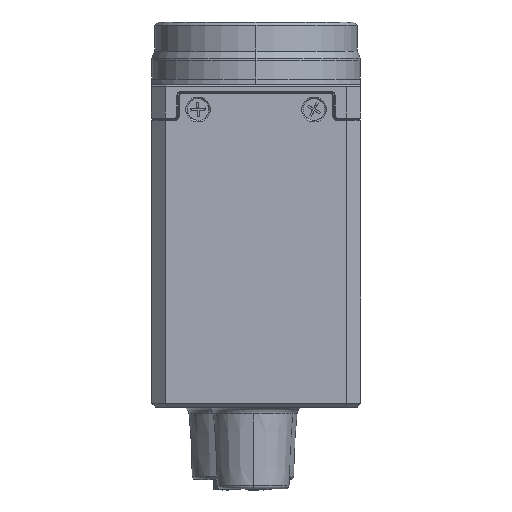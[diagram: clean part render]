
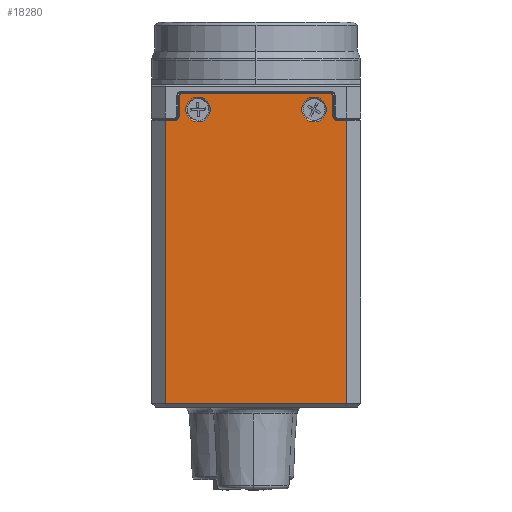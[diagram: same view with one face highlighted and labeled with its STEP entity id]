
A CAD part, left-side view. The second image highlights one B-rep face of the part: STEP entity #18280.
In plain terms, the highlighted planar face has unit normal (-1, 0, 0).
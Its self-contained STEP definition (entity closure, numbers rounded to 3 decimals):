
#19 = DIRECTION ( 'NONE',  ( 1., 0., 0. ) ) ;
#20 = VERTEX_POINT ( 'NONE', #3892 ) ;
#164 = VECTOR ( 'NONE', #22128, 1000. ) ;
#255 = CARTESIAN_POINT ( 'NONE',  ( -22., 10.6, 6. ) ) ;
#595 = CARTESIAN_POINT ( 'NONE',  ( -22., -10.6, 6. ) ) ;
#848 = ORIENTED_EDGE ( 'NONE', *, *, #8259, .T. ) ;
#946 = AXIS2_PLACEMENT_3D ( 'NONE', #16317, #2841, #14506 ) ;
#1070 = LINE ( 'NONE', #7257, #2730 ) ;
#1352 = CARTESIAN_POINT ( 'NONE',  ( -22., -10.2, 9.1 ) ) ;
#1523 = ORIENTED_EDGE ( 'NONE', *, *, #3935, .F. ) ;
#1817 = DIRECTION ( 'NONE',  ( 0., 1., 0. ) ) ;
#1862 = ORIENTED_EDGE ( 'NONE', *, *, #9431, .T. ) ;
#2003 = VERTEX_POINT ( 'NONE', #12999 ) ;
#2270 = DIRECTION ( 'NONE',  ( 0., 1., 0. ) ) ;
#2455 = VERTEX_POINT ( 'NONE', #13159 ) ;
#2501 = DIRECTION ( 'NONE',  ( 0., 1., 0. ) ) ;
#2533 = EDGE_LOOP ( 'NONE', ( #1523, #18988 ) ) ;
#2682 = LINE ( 'NONE', #14099, #4579 ) ;
#2730 = VECTOR ( 'NONE', #22880, 1000. ) ;
#2841 = DIRECTION ( 'NONE',  ( -1., 0., 0. ) ) ;
#2849 = EDGE_CURVE ( 'NONE', #13545, #20, #9083, .T. ) ;
#2936 = VERTEX_POINT ( 'NONE', #18092 ) ;
#2951 = EDGE_CURVE ( 'NONE', #22620, #3953, #2682, .T. ) ;
#3023 = EDGE_LOOP ( 'NONE', ( #23467, #1862, #16623, #23057, #848, #6311, #7621, #15459, #16980, #10629, #16657, #21798 ) ) ;
#3082 = DIRECTION ( 'NONE',  ( 0., 1., 0. ) ) ;
#3377 = CARTESIAN_POINT ( 'NONE',  ( -22., -8., 6.9 ) ) ;
#3459 = DIRECTION ( 'NONE',  ( 1., 0., 0. ) ) ;
#3892 = CARTESIAN_POINT ( 'NONE',  ( -22., -8., 8.6 ) ) ;
#3924 = AXIS2_PLACEMENT_3D ( 'NONE', #13460, #3459, #3082 ) ;
#3935 = EDGE_CURVE ( 'NONE', #20, #13545, #23076, .T. ) ;
#3953 = VERTEX_POINT ( 'NONE', #5449 ) ;
#4127 = EDGE_CURVE ( 'NONE', #9990, #14365, #23887, .T. ) ;
#4331 = CARTESIAN_POINT ( 'NONE',  ( -22., -10.2, 8.7 ) ) ;
#4377 = CARTESIAN_POINT ( 'NONE',  ( -22., -11.2, 5.4 ) ) ;
#4579 = VECTOR ( 'NONE', #10392, 1000. ) ;
#5090 = ORIENTED_EDGE ( 'NONE', *, *, #20112, .F. ) ;
#5449 = CARTESIAN_POINT ( 'NONE',  ( -22., -12.5, -33.7 ) ) ;
#5620 = DIRECTION ( 'NONE',  ( 0., 0., 1. ) ) ;
#5658 = FACE_BOUND ( 'NONE', #7086, .T. ) ;
#6003 = EDGE_CURVE ( 'NONE', #6660, #2936, #7425, .T. ) ;
#6054 = DIRECTION ( 'NONE',  ( 0., 1., 0. ) ) ;
#6253 = LINE ( 'NONE', #14039, #21952 ) ;
#6311 = ORIENTED_EDGE ( 'NONE', *, *, #14417, .T. ) ;
#6660 = VERTEX_POINT ( 'NONE', #20797 ) ;
#6719 = CIRCLE ( 'NONE', #7960, 0.6 ) ;
#6761 = CARTESIAN_POINT ( 'NONE',  ( -22., 10.6, 5.5 ) ) ;
#6819 = CARTESIAN_POINT ( 'NONE',  ( -22., 10.2, 8.7 ) ) ;
#7001 = CIRCLE ( 'NONE', #19267, 0.4 ) ;
#7086 = EDGE_LOOP ( 'NONE', ( #18158, #5090 ) ) ;
#7257 = CARTESIAN_POINT ( 'NONE',  ( -22., 14.4, -33.7 ) ) ;
#7316 = EDGE_CURVE ( 'NONE', #2003, #10024, #14302, .T. ) ;
#7425 = LINE ( 'NONE', #23172, #13928 ) ;
#7541 = CIRCLE ( 'NONE', #15734, 0.6 ) ;
#7581 = FACE_BOUND ( 'NONE', #2533, .T. ) ;
#7621 = ORIENTED_EDGE ( 'NONE', *, *, #14290, .T. ) ;
#7937 = EDGE_CURVE ( 'NONE', #10024, #2455, #6719, .T. ) ;
#7960 = AXIS2_PLACEMENT_3D ( 'NONE', #23370, #19, #1817 ) ;
#8259 = EDGE_CURVE ( 'NONE', #22302, #20306, #7541, .T. ) ;
#9083 = CIRCLE ( 'NONE', #20132, 1.7 ) ;
#9431 = EDGE_CURVE ( 'NONE', #6660, #3953, #1070, .T. ) ;
#9464 = VECTOR ( 'NONE', #18802, 1000. ) ;
#9990 = VERTEX_POINT ( 'NONE', #17845 ) ;
#10024 = VERTEX_POINT ( 'NONE', #255 ) ;
#10392 = DIRECTION ( 'NONE',  ( 0., 0., -1. ) ) ;
#10421 = DIRECTION ( 'NONE',  ( -1., 0., 0. ) ) ;
#10475 = DIRECTION ( 'NONE',  ( -1., 0., 0. ) ) ;
#10528 = DIRECTION ( 'NONE',  ( -1., 0., 0. ) ) ;
#10549 = VERTEX_POINT ( 'NONE', #23020 ) ;
#10629 = ORIENTED_EDGE ( 'NONE', *, *, #7316, .T. ) ;
#11208 = DIRECTION ( 'NONE',  ( -1., 0., 0. ) ) ;
#11595 = AXIS2_PLACEMENT_3D ( 'NONE', #3377, #11208, #21332 ) ;
#12893 = CARTESIAN_POINT ( 'NONE',  ( -22., -10.6, 5.5 ) ) ;
#12999 = CARTESIAN_POINT ( 'NONE',  ( -22., 10.6, 8.7 ) ) ;
#13057 = DIRECTION ( 'NONE',  ( 0., 0., 1. ) ) ;
#13159 = CARTESIAN_POINT ( 'NONE',  ( -22., 11.2, 5.4 ) ) ;
#13460 = CARTESIAN_POINT ( 'NONE',  ( -22., 14.4, 5.5 ) ) ;
#13486 = VECTOR ( 'NONE', #25370, 1000. ) ;
#13545 = VERTEX_POINT ( 'NONE', #17606 ) ;
#13601 = CARTESIAN_POINT ( 'NONE',  ( -22., -11.2, 6. ) ) ;
#13804 = CARTESIAN_POINT ( 'NONE',  ( -22., -11.2, 5.4 ) ) ;
#13928 = VECTOR ( 'NONE', #5620, 1000. ) ;
#14039 = CARTESIAN_POINT ( 'NONE',  ( -22., 14.4, 9.1 ) ) ;
#14099 = CARTESIAN_POINT ( 'NONE',  ( -22., -12.5, 5.5 ) ) ;
#14290 = EDGE_CURVE ( 'NONE', #18534, #19117, #19131, .T. ) ;
#14302 = LINE ( 'NONE', #6761, #164 ) ;
#14365 = VERTEX_POINT ( 'NONE', #18173 ) ;
#14417 = EDGE_CURVE ( 'NONE', #20306, #18534, #22510, .T. ) ;
#14420 = EDGE_CURVE ( 'NONE', #2455, #2936, #18556, .T. ) ;
#14506 = DIRECTION ( 'NONE',  ( 0., 0., 1. ) ) ;
#15394 = DIRECTION ( 'NONE',  ( -1., 0., 0. ) ) ;
#15459 = ORIENTED_EDGE ( 'NONE', *, *, #19551, .T. ) ;
#15734 = AXIS2_PLACEMENT_3D ( 'NONE', #13601, #17586, #6054 ) ;
#16317 = CARTESIAN_POINT ( 'NONE',  ( -22., 8., 6.9 ) ) ;
#16623 = ORIENTED_EDGE ( 'NONE', *, *, #2951, .F. ) ;
#16657 = ORIENTED_EDGE ( 'NONE', *, *, #7937, .T. ) ;
#16980 = ORIENTED_EDGE ( 'NONE', *, *, #17060, .T. ) ;
#17060 = EDGE_CURVE ( 'NONE', #10549, #2003, #7001, .T. ) ;
#17586 = DIRECTION ( 'NONE',  ( 1., 0., 0. ) ) ;
#17588 = DIRECTION ( 'NONE',  ( 0., 0., 1. ) ) ;
#17606 = CARTESIAN_POINT ( 'NONE',  ( -22., -8., 5.2 ) ) ;
#17845 = CARTESIAN_POINT ( 'NONE',  ( -22., 8., 8.6 ) ) ;
#18092 = CARTESIAN_POINT ( 'NONE',  ( -22., 12.5, 5.4 ) ) ;
#18158 = ORIENTED_EDGE ( 'NONE', *, *, #4127, .F. ) ;
#18173 = CARTESIAN_POINT ( 'NONE',  ( -22., 8., 5.2 ) ) ;
#18220 = CARTESIAN_POINT ( 'NONE',  ( -22., -12.5, 5.4 ) ) ;
#18280 = ADVANCED_FACE ( 'NONE', ( #7581, #5658, #19244 ), #18869, .F. ) ;
#18464 = CARTESIAN_POINT ( 'NONE',  ( -22., -10.6, 8.7 ) ) ;
#18534 = VERTEX_POINT ( 'NONE', #18464 ) ;
#18556 = LINE ( 'NONE', #24838, #9464 ) ;
#18802 = DIRECTION ( 'NONE',  ( 0., 1., 0. ) ) ;
#18869 = PLANE ( 'NONE',  #3924 ) ;
#18988 = ORIENTED_EDGE ( 'NONE', *, *, #2849, .F. ) ;
#19117 = VERTEX_POINT ( 'NONE', #1352 ) ;
#19131 = CIRCLE ( 'NONE', #24457, 0.4 ) ;
#19244 = FACE_OUTER_BOUND ( 'NONE', #3023, .T. ) ;
#19267 = AXIS2_PLACEMENT_3D ( 'NONE', #6819, #10528, #22311 ) ;
#19551 = EDGE_CURVE ( 'NONE', #19117, #10549, #6253, .T. ) ;
#20024 = CARTESIAN_POINT ( 'NONE',  ( -22., 8., 6.9 ) ) ;
#20112 = EDGE_CURVE ( 'NONE', #14365, #9990, #20741, .T. ) ;
#20132 = AXIS2_PLACEMENT_3D ( 'NONE', #23346, #15394, #17588 ) ;
#20306 = VERTEX_POINT ( 'NONE', #595 ) ;
#20353 = AXIS2_PLACEMENT_3D ( 'NONE', #20024, #10421, #13057 ) ;
#20463 = DIRECTION ( 'NONE',  ( 0., 0., 1. ) ) ;
#20741 = CIRCLE ( 'NONE', #20353, 1.7 ) ;
#20797 = CARTESIAN_POINT ( 'NONE',  ( -22., 12.5, -33.7 ) ) ;
#21332 = DIRECTION ( 'NONE',  ( 0., 0., 1. ) ) ;
#21798 = ORIENTED_EDGE ( 'NONE', *, *, #14420, .T. ) ;
#21952 = VECTOR ( 'NONE', #2501, 1000. ) ;
#22128 = DIRECTION ( 'NONE',  ( 0., 0., -1. ) ) ;
#22302 = VERTEX_POINT ( 'NONE', #4377 ) ;
#22311 = DIRECTION ( 'NONE',  ( 0., 1., 0. ) ) ;
#22510 = LINE ( 'NONE', #12893, #24186 ) ;
#22620 = VERTEX_POINT ( 'NONE', #18220 ) ;
#22880 = DIRECTION ( 'NONE',  ( 0., -1., 0. ) ) ;
#23020 = CARTESIAN_POINT ( 'NONE',  ( -22., 10.2, 9.1 ) ) ;
#23057 = ORIENTED_EDGE ( 'NONE', *, *, #23294, .T. ) ;
#23076 = CIRCLE ( 'NONE', #11595, 1.7 ) ;
#23172 = CARTESIAN_POINT ( 'NONE',  ( -22., 12.5, 5.5 ) ) ;
#23294 = EDGE_CURVE ( 'NONE', #22620, #22302, #23554, .T. ) ;
#23346 = CARTESIAN_POINT ( 'NONE',  ( -22., -8., 6.9 ) ) ;
#23370 = CARTESIAN_POINT ( 'NONE',  ( -22., 11.2, 6. ) ) ;
#23467 = ORIENTED_EDGE ( 'NONE', *, *, #6003, .F. ) ;
#23554 = LINE ( 'NONE', #13804, #13486 ) ;
#23887 = CIRCLE ( 'NONE', #946, 1.7 ) ;
#24186 = VECTOR ( 'NONE', #20463, 1000. ) ;
#24457 = AXIS2_PLACEMENT_3D ( 'NONE', #4331, #10475, #2270 ) ;
#24838 = CARTESIAN_POINT ( 'NONE',  ( -22., 12.5, 5.4 ) ) ;
#25370 = DIRECTION ( 'NONE',  ( 0., 1., 0. ) ) ;
